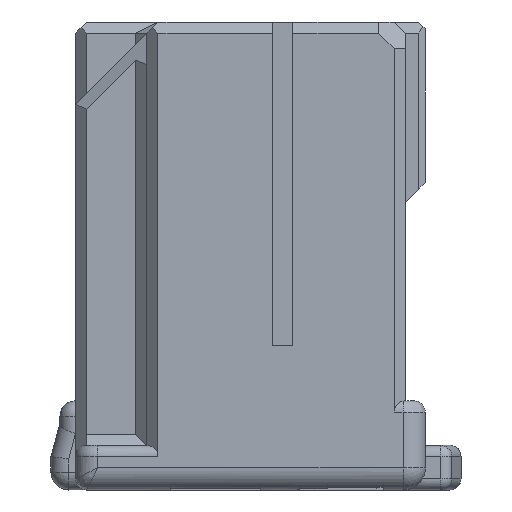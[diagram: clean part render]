
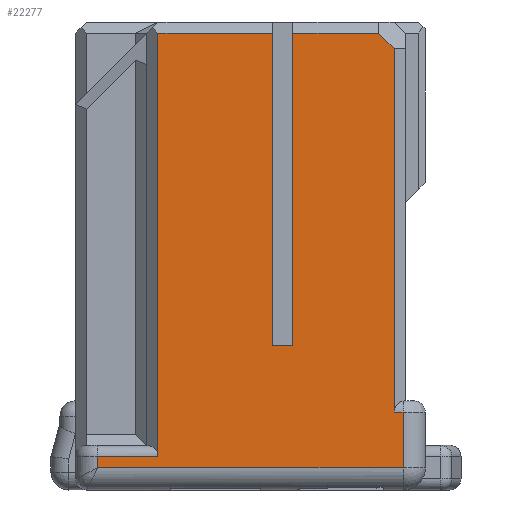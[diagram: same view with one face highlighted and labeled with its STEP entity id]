
A CAD part, left-side view. The second image highlights one B-rep face of the part: STEP entity #22277.
In plain terms, the highlighted planar face has unit normal (-1, 0, 0).
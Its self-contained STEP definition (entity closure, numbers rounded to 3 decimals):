
#3797=DIRECTION('',(0.,0.,-1.));
#3798=VECTOR('',#3797,19.);
#3799=CARTESIAN_POINT('',(-21.1,5.3,-0.5));
#3800=LINE('',#3799,#3798);
#3801=DIRECTION('',(0.,-1.,0.));
#3802=VECTOR('',#3801,0.4);
#3803=CARTESIAN_POINT('',(-21.1,-5.3,-17.5));
#3804=LINE('',#3803,#3802);
#3805=DIRECTION('',(0.,0.,1.));
#3806=VECTOR('',#3805,2.5);
#3807=CARTESIAN_POINT('',(-21.1,-5.7,-20.));
#3808=LINE('',#3807,#3806);
#3809=DIRECTION('',(0.,0.,-1.));
#3810=VECTOR('',#3809,0.5);
#3811=CARTESIAN_POINT('',(-21.1,8.,-19.5));
#3812=LINE('',#3811,#3810);
#3813=DIRECTION('',(0.,-1.,0.));
#3814=VECTOR('',#3813,2.7);
#3815=CARTESIAN_POINT('',(-21.1,8.,-19.5));
#3816=LINE('',#3815,#3814);
#3817=DIRECTION('',(0.,-1.,0.));
#3818=VECTOR('',#3817,5.15);
#3819=CARTESIAN_POINT('',(-21.1,5.3,-0.5));
#3820=LINE('',#3819,#3818);
#3821=DIRECTION('',(0.,0.,-1.));
#3822=VECTOR('',#3821,14.);
#3823=CARTESIAN_POINT('',(-21.1,0.15,-0.5));
#3824=LINE('',#3823,#3822);
#3825=DIRECTION('',(0.,1.,0.));
#3826=VECTOR('',#3825,0.9);
#3827=CARTESIAN_POINT('',(-21.1,-0.75,-14.5));
#3828=LINE('',#3827,#3826);
#3829=DIRECTION('',(0.,0.,-1.));
#3830=VECTOR('',#3829,14.);
#3831=CARTESIAN_POINT('',(-21.1,-0.75,-0.5));
#3832=LINE('',#3831,#3830);
#3833=DIRECTION('',(0.,-1.,0.));
#3834=VECTOR('',#3833,3.85);
#3835=CARTESIAN_POINT('',(-21.1,-0.75,-0.5));
#3836=LINE('',#3835,#3834);
#3837=DIRECTION('',(0.,0.707,0.707));
#3838=VECTOR('',#3837,0.99);
#3839=CARTESIAN_POINT('',(-21.1,-5.3,-1.2));
#3840=LINE('',#3839,#3838);
#3848=DIRECTION('',(0.,0.,1.));
#3849=VECTOR('',#3848,16.3);
#3850=CARTESIAN_POINT('',(-21.1,-5.3,-17.5));
#3851=LINE('',#3850,#3849);
#5992=DIRECTION('',(0.,-1.,0.));
#5993=VECTOR('',#5992,13.7);
#5994=CARTESIAN_POINT('',(-21.1,8.,-20.));
#5995=LINE('',#5994,#5993);
#11756=CARTESIAN_POINT('',(-21.1,5.3,-19.5));
#14381=CARTESIAN_POINT('',(-21.1,-4.6,-0.5));
#14383=VERTEX_POINT('',#14381);
#14388=CARTESIAN_POINT('',(-21.1,-5.3,-1.2));
#14389=VERTEX_POINT('',#14388);
#14580=CARTESIAN_POINT('',(-21.1,8.,-19.5));
#14581=CARTESIAN_POINT('',(-21.1,8.,-20.));
#14582=VERTEX_POINT('',#14580);
#14583=VERTEX_POINT('',#14581);
#14668=CARTESIAN_POINT('',(-21.1,-5.7,-20.));
#14669=VERTEX_POINT('',#14668);
#14715=CARTESIAN_POINT('',(-21.1,-0.75,-14.5));
#14716=CARTESIAN_POINT('',(-21.1,0.15,-14.5));
#14717=VERTEX_POINT('',#14715);
#14718=VERTEX_POINT('',#14716);
#14719=CARTESIAN_POINT('',(-21.1,-0.75,-0.5));
#14720=VERTEX_POINT('',#14719);
#14721=CARTESIAN_POINT('',(-21.1,0.15,-0.5));
#14722=VERTEX_POINT('',#14721);
#14744=VERTEX_POINT('',#11756);
#16784=CARTESIAN_POINT('',(-21.1,5.3,-0.5));
#16785=VERTEX_POINT('',#16784);
#17505=CARTESIAN_POINT('',(-21.1,-5.7,-17.5));
#17506=VERTEX_POINT('',#17505);
#17507=CARTESIAN_POINT('',(-21.1,-5.3,-17.5));
#17508=VERTEX_POINT('',#17507);
#22245=CARTESIAN_POINT('',(-21.1,-5.8,0.));
#22246=DIRECTION('',(-1.,0.,0.));
#22247=DIRECTION('',(0.,1.,0.));
#22248=AXIS2_PLACEMENT_3D('',#22245,#22246,#22247);
#22249=PLANE('',#22248);
#22251=ORIENTED_EDGE('',*,*,#22250,.T.);
#22253=ORIENTED_EDGE('',*,*,#22252,.F.);
#22255=ORIENTED_EDGE('',*,*,#22254,.F.);
#22257=ORIENTED_EDGE('',*,*,#22256,.F.);
#22259=ORIENTED_EDGE('',*,*,#22258,.T.);
#22260=ORIENTED_EDGE('',*,*,#22233,.F.);
#22262=ORIENTED_EDGE('',*,*,#22261,.T.);
#22264=ORIENTED_EDGE('',*,*,#22263,.T.);
#22266=ORIENTED_EDGE('',*,*,#22265,.F.);
#22268=ORIENTED_EDGE('',*,*,#22267,.F.);
#22270=ORIENTED_EDGE('',*,*,#22269,.T.);
#22272=ORIENTED_EDGE('',*,*,#22271,.F.);
#22274=ORIENTED_EDGE('',*,*,#22273,.F.);
#22275=EDGE_LOOP('',(#22251,#22253,#22255,#22257,#22259,#22260,#22262,#22264,
#22266,#22268,#22270,#22272,#22274));
#22276=FACE_OUTER_BOUND('',#22275,.F.);
#22233=EDGE_CURVE('',#16785,#14744,#3800,.T.);
#22250=EDGE_CURVE('',#17508,#17506,#3804,.T.);
#22252=EDGE_CURVE('',#14669,#17506,#3808,.T.);
#22254=EDGE_CURVE('',#14583,#14669,#5995,.T.);
#22256=EDGE_CURVE('',#14582,#14583,#3812,.T.);
#22258=EDGE_CURVE('',#14582,#14744,#3816,.T.);
#22261=EDGE_CURVE('',#16785,#14722,#3820,.T.);
#22263=EDGE_CURVE('',#14722,#14718,#3824,.T.);
#22265=EDGE_CURVE('',#14717,#14718,#3828,.T.);
#22267=EDGE_CURVE('',#14720,#14717,#3832,.T.);
#22269=EDGE_CURVE('',#14720,#14383,#3836,.T.);
#22271=EDGE_CURVE('',#14389,#14383,#3840,.T.);
#22273=EDGE_CURVE('',#17508,#14389,#3851,.T.);
#22277=ADVANCED_FACE('',(#22276),#22249,.T.);
